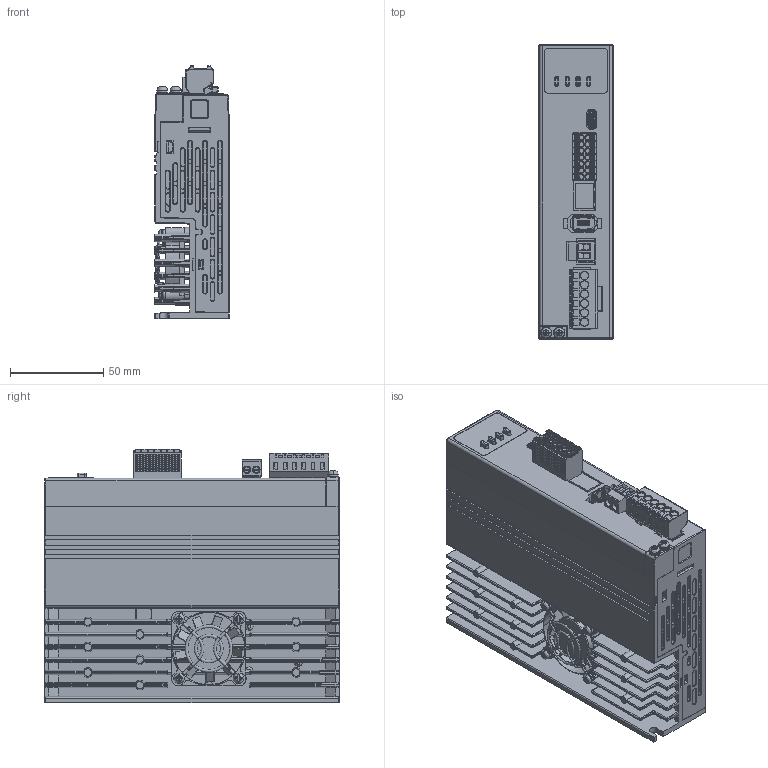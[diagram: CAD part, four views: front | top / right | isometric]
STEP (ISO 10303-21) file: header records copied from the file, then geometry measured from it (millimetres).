
FILE_DESCRIPTION((''),'2;1');
FILE_NAME('MS2-S3_SW0002','2026-03-17T16:39:02',('Admin'),(''),'CREO PARAMETRIC BY PTC INC, 2020074','CREO PARAMETRIC BY PTC INC, 2020074','');
FILE_SCHEMA(('CONFIG_CONTROL_DESIGN'));
Products named in the file (1): MS2-S3_SW0002
Bounding box: 40 x 158 x 136 mm (x, y, z)
Volume: 571644.8 mm3; surface area: 189055.5 mm2
Topology: 1 solids, 1 shells, 6223 faces, 17461 edges, 11269 vertices
Faces by surface type: plane 4124, cylinder 1437, bspline 236, torus 158, cone 124, sphere 123, extrusion 21
Entity records: 208898 total; most frequent: CARTESIAN_POINT 48996, ORIENTED_EDGE 34864, DIRECTION 31115, EDGE_CURVE 17432, VECTOR 13013, LINE 12992, VERTEX_POINT 11269, AXIS2_PLACEMENT_3D 9051
